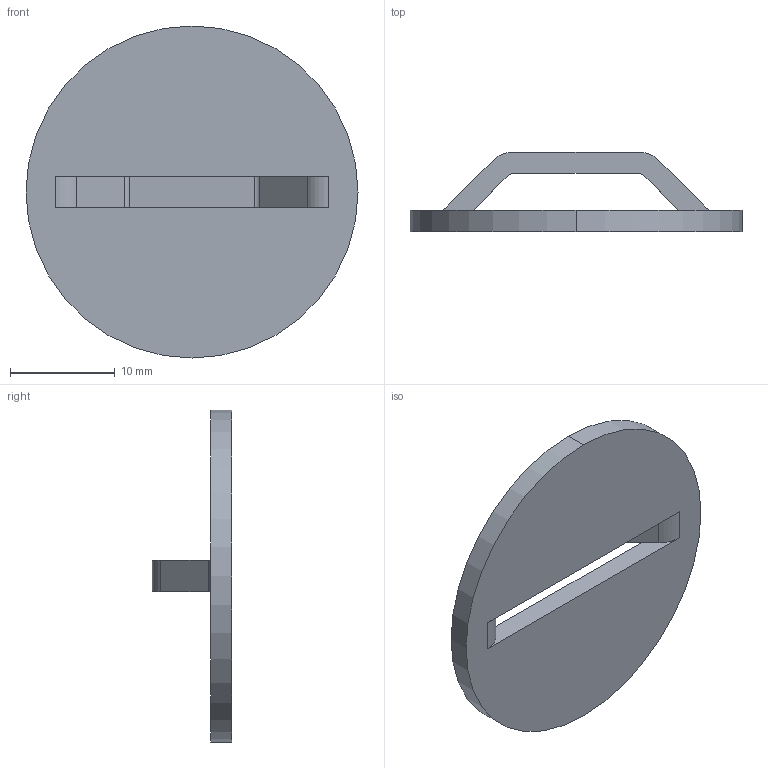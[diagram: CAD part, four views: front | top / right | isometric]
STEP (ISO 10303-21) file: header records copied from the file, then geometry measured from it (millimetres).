
FILE_DESCRIPTION (( 'STEP AP203' ), '1' );
FILE_NAME ('1368057-10 -BRIDGE LANCE SGL 1.00LX.125WX.220H .080 THK SO.STEP', '2024-11-18T17:18:05', ( '' ), ( '' ), 'SwSTEP 2.0', 'SolidWorks 2024', '' );
FILE_SCHEMA (( 'CONFIG_CONTROL_DESIGN' ));
Length unit declared in the file: inch
Products named in the file (1): 1368057-10 -BRIDGE LANCE SGL 1.00LX.125WX.220H .080 THK SO
Bounding box: 31.75 x 7.62 x 31.75 mm (x, y, z)
Volume: 1635.6 mm3; surface area: 2007.7 mm2
Topology: 1 solids, 1 shells, 22 faces, 62 edges, 40 vertices
Faces by surface type: plane 12, cylinder 10
Entity records: 801 total; most frequent: DIRECTION 128, CARTESIAN_POINT 125, ORIENTED_EDGE 124, EDGE_CURVE 62, AXIS2_PLACEMENT_3D 43, LINE 42, VECTOR 42, VERTEX_POINT 40
